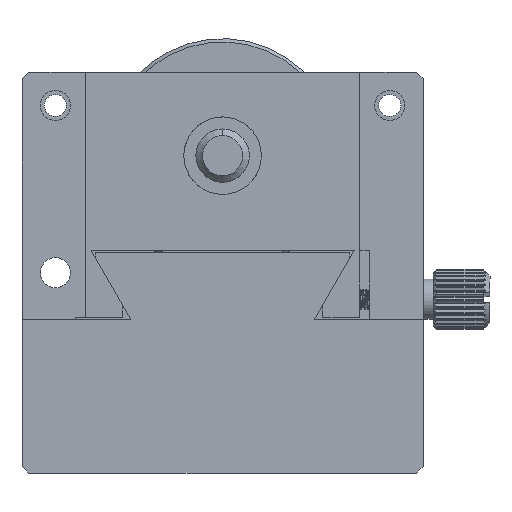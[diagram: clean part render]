
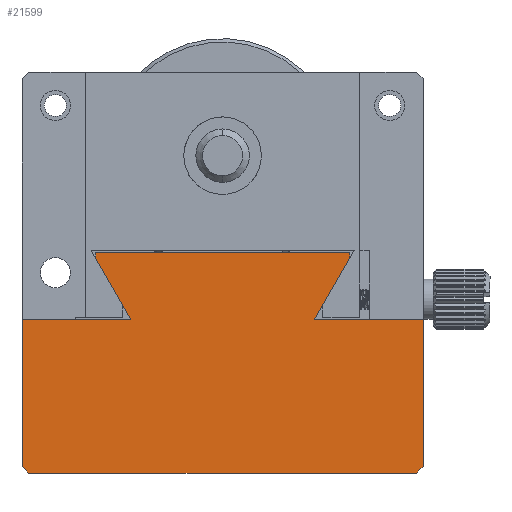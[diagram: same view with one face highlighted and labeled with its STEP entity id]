
A CAD part, front view. The second image highlights one B-rep face of the part: STEP entity #21599.
In plain terms, the highlighted planar face has unit normal (0, -1, 0).
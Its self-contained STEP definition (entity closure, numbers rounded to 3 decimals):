
#185 = LINE ( 'NONE', #15079, #21712 ) ;
#198 = EDGE_CURVE ( 'NONE', #11659, #10322, #20969, .T. ) ;
#565 = LINE ( 'NONE', #19578, #11672 ) ;
#986 = VERTEX_POINT ( 'NONE', #6855 ) ;
#1696 = VERTEX_POINT ( 'NONE', #3239 ) ;
#2475 = ORIENTED_EDGE ( 'NONE', *, *, #4749, .F. ) ;
#3079 = CARTESIAN_POINT ( 'NONE',  ( 19., 0., -33. ) ) ;
#3110 = VECTOR ( 'NONE', #17093, 1000. ) ;
#3149 = DIRECTION ( 'NONE',  ( 1., 0., 0. ) ) ;
#3226 = CARTESIAN_POINT ( 'NONE',  ( -30., 0., 0. ) ) ;
#3239 = CARTESIAN_POINT ( 'NONE',  ( -19., 0., -32.134 ) ) ;
#3780 = CARTESIAN_POINT ( 'NONE',  ( 19., 0., -32.134 ) ) ;
#4137 = EDGE_LOOP ( 'NONE', ( #18167, #23030, #7587, #20952, #2475, #19754, #9396, #21908, #16515, #15594, #11867, #12624 ) ) ;
#4248 = CARTESIAN_POINT ( 'NONE',  ( 30., 0., -23. ) ) ;
#4314 = DIRECTION ( 'NONE',  ( -0.707, 0., 0.707 ) ) ;
#4399 = VECTOR ( 'NONE', #3149, 1000. ) ;
#4563 = LINE ( 'NONE', #13376, #10004 ) ;
#4749 = EDGE_CURVE ( 'NONE', #10322, #17008, #13140, .T. ) ;
#4927 = DIRECTION ( 'NONE',  ( 0., 0., 1. ) ) ;
#4938 = EDGE_CURVE ( 'NONE', #10326, #17008, #8815, .T. ) ;
#5054 = VECTOR ( 'NONE', #14072, 1000. ) ;
#5137 = EDGE_CURVE ( 'NONE', #9431, #6052, #11975, .T. ) ;
#5381 = LINE ( 'NONE', #4248, #3110 ) ;
#5601 = CARTESIAN_POINT ( 'NONE',  ( -13.726, 0., -23. ) ) ;
#5660 = VECTOR ( 'NONE', #11714, 1000. ) ;
#5672 = VECTOR ( 'NONE', #15070, 1000. ) ;
#5712 = VECTOR ( 'NONE', #18476, 1000. ) ;
#6052 = VERTEX_POINT ( 'NONE', #17686 ) ;
#6434 = CARTESIAN_POINT ( 'NONE',  ( 30., 0., -1. ) ) ;
#6466 = DIRECTION ( 'NONE',  ( -1., 0., 0. ) ) ;
#6855 = CARTESIAN_POINT ( 'NONE',  ( 13.726, 0., -23. ) ) ;
#6897 = EDGE_CURVE ( 'NONE', #6052, #986, #5381, .T. ) ;
#7150 = DIRECTION ( 'NONE',  ( 0., 0., -1. ) ) ;
#7256 = VERTEX_POINT ( 'NONE', #12685 ) ;
#7587 = ORIENTED_EDGE ( 'NONE', *, *, #16455, .F. ) ;
#7784 = VECTOR ( 'NONE', #17434, 1000. ) ;
#7907 = CARTESIAN_POINT ( 'NONE',  ( -29., 0., 0. ) ) ;
#8280 = CARTESIAN_POINT ( 'NONE',  ( 13.726, 0., -23. ) ) ;
#8815 = LINE ( 'NONE', #7907, #20366 ) ;
#9396 = ORIENTED_EDGE ( 'NONE', *, *, #11501, .F. ) ;
#9431 = VERTEX_POINT ( 'NONE', #6434 ) ;
#9770 = CARTESIAN_POINT ( 'NONE',  ( -30., 0., -23. ) ) ;
#9969 = CARTESIAN_POINT ( 'NONE',  ( 29., 0., 0. ) ) ;
#10004 = VECTOR ( 'NONE', #4314, 1000. ) ;
#10060 = DIRECTION ( 'NONE',  ( -0.707, 0., -0.707 ) ) ;
#10322 = VERTEX_POINT ( 'NONE', #9770 ) ;
#10326 = VERTEX_POINT ( 'NONE', #11612 ) ;
#10943 = VERTEX_POINT ( 'NONE', #9969 ) ;
#11214 = EDGE_CURVE ( 'NONE', #7256, #1696, #565, .T. ) ;
#11501 = EDGE_CURVE ( 'NONE', #1696, #11659, #20067, .T. ) ;
#11612 = CARTESIAN_POINT ( 'NONE',  ( -29., 0., 0. ) ) ;
#11659 = VERTEX_POINT ( 'NONE', #11961 ) ;
#11672 = VECTOR ( 'NONE', #4927, 1000. ) ;
#11714 = DIRECTION ( 'NONE',  ( 0.5, 0., 0.866 ) ) ;
#11867 = ORIENTED_EDGE ( 'NONE', *, *, #18927, .F. ) ;
#11961 = CARTESIAN_POINT ( 'NONE',  ( -13.726, 0., -23. ) ) ;
#11975 = LINE ( 'NONE', #12928, #17181 ) ;
#12624 = ORIENTED_EDGE ( 'NONE', *, *, #6897, .F. ) ;
#12685 = CARTESIAN_POINT ( 'NONE',  ( -19., 0., -33. ) ) ;
#12865 = EDGE_CURVE ( 'NONE', #19950, #19938, #19744, .T. ) ;
#12928 = CARTESIAN_POINT ( 'NONE',  ( 30., 0., 0. ) ) ;
#13140 = LINE ( 'NONE', #20570, #5672 ) ;
#13376 = CARTESIAN_POINT ( 'NONE',  ( 30., 0., -1. ) ) ;
#13980 = EDGE_CURVE ( 'NONE', #19938, #7256, #185, .T. ) ;
#14072 = DIRECTION ( 'NONE',  ( 0., 0., -1. ) ) ;
#14753 = CARTESIAN_POINT ( 'NONE',  ( 19., 0., -33. ) ) ;
#15070 = DIRECTION ( 'NONE',  ( 0., 0., 1. ) ) ;
#15079 = CARTESIAN_POINT ( 'NONE',  ( 19.5, 0., -33. ) ) ;
#15264 = CARTESIAN_POINT ( 'NONE',  ( -30., 0., -1. ) ) ;
#15358 = CARTESIAN_POINT ( 'NONE',  ( -19.5, 0., -33. ) ) ;
#15594 = ORIENTED_EDGE ( 'NONE', *, *, #12865, .F. ) ;
#16258 = CARTESIAN_POINT ( 'NONE',  ( 0., 0., 0. ) ) ;
#16339 = PLANE ( 'NONE',  #21344 ) ;
#16455 = EDGE_CURVE ( 'NONE', #10326, #10943, #22825, .T. ) ;
#16515 = ORIENTED_EDGE ( 'NONE', *, *, #13980, .F. ) ;
#16982 = FACE_OUTER_BOUND ( 'NONE', #4137, .T. ) ;
#17003 = LINE ( 'NONE', #8280, #7784 ) ;
#17008 = VERTEX_POINT ( 'NONE', #15264 ) ;
#17093 = DIRECTION ( 'NONE',  ( -1., 0., 0. ) ) ;
#17181 = VECTOR ( 'NONE', #7150, 1000. ) ;
#17434 = DIRECTION ( 'NONE',  ( 0.5, 0., -0.866 ) ) ;
#17686 = CARTESIAN_POINT ( 'NONE',  ( 30., 0., -23. ) ) ;
#18022 = DIRECTION ( 'NONE',  ( 0., 1., 0. ) ) ;
#18167 = ORIENTED_EDGE ( 'NONE', *, *, #5137, .F. ) ;
#18476 = DIRECTION ( 'NONE',  ( -1., 0., 0. ) ) ;
#18927 = EDGE_CURVE ( 'NONE', #986, #19950, #17003, .T. ) ;
#19578 = CARTESIAN_POINT ( 'NONE',  ( -19., 0., -33. ) ) ;
#19744 = LINE ( 'NONE', #3079, #5054 ) ;
#19754 = ORIENTED_EDGE ( 'NONE', *, *, #198, .F. ) ;
#19938 = VERTEX_POINT ( 'NONE', #14753 ) ;
#19950 = VERTEX_POINT ( 'NONE', #3780 ) ;
#20067 = LINE ( 'NONE', #15358, #5660 ) ;
#20366 = VECTOR ( 'NONE', #10060, 1000. ) ;
#20570 = CARTESIAN_POINT ( 'NONE',  ( -30., 0., -23. ) ) ;
#20952 = ORIENTED_EDGE ( 'NONE', *, *, #4938, .T. ) ;
#20969 = LINE ( 'NONE', #5601, #5712 ) ;
#21344 = AXIS2_PLACEMENT_3D ( 'NONE', #16258, #18022, #21751 ) ;
#21599 = ADVANCED_FACE ( 'NONE', ( #16982 ), #16339, .F. ) ;
#21712 = VECTOR ( 'NONE', #6466, 1000. ) ;
#21751 = DIRECTION ( 'NONE',  ( 0., 0., 1. ) ) ;
#21908 = ORIENTED_EDGE ( 'NONE', *, *, #11214, .F. ) ;
#22825 = LINE ( 'NONE', #3226, #4399 ) ;
#23030 = ORIENTED_EDGE ( 'NONE', *, *, #23271, .T. ) ;
#23271 = EDGE_CURVE ( 'NONE', #9431, #10943, #4563, .T. ) ;
